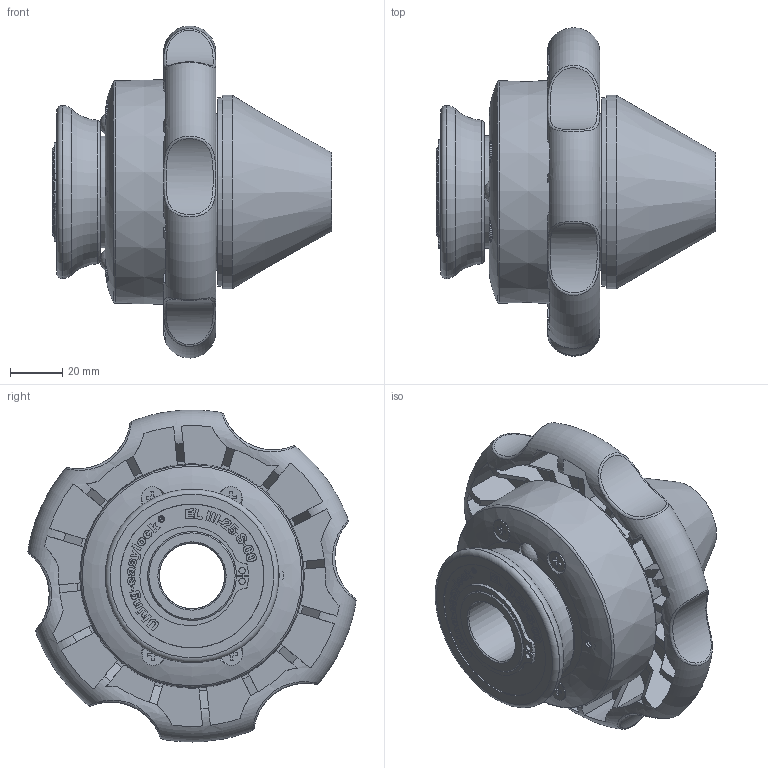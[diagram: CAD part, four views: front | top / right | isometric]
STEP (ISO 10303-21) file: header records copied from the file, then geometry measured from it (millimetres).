
FILE_DESCRIPTION (( 'STEP AP214' ), '1' );
FILE_NAME ('EL-III-25-K60.STEP', '2023-03-16T12:49:45', ( '' ), ( '' ), 'SwSTEP 2.0', 'SolidWorks 2022', '' );
FILE_SCHEMA (( 'AUTOMOTIVE_DESIGN' ));
Length unit declared in the file: millimetre
Products named in the file (1): EL-III-25-K60
Bounding box: 106.97 x 125.55 x 126.99 mm (x, y, z)
Volume: 318165.7 mm3; surface area: 162976.7 mm2
Topology: 52 solids, 81 shells, 1344 faces, 3430 edges, 2265 vertices
Faces by surface type: plane 672, bspline 399, cylinder 200, cone 56, torus 11, sphere 6
Full cylindrical faces by diameter (mm): 2.5 x8, 3 x1, 3.57 x3, 3.571 x1, 3.8 x4, 4 x8, 4.1 x4, 6 x3, 6.8 x1, 8 x1, 8.4 x4, 10.05 x2, 25.05 x2, 25.06 x1, 25.1 x1, 32.3 x1, 34 x5, 34.1 x1, 34.5 x2, 39 x1, 40 x1, 43.2 x1, 48.5 x1, 50 x3, 51 x1, 55 x1, 55.1 x5, 57 x2, 59.9 x2, 60 x4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
Entity records: 95135 total; most frequent: CARTESIAN_POINT 51793, ORIENTED_EDGE 6208, DIRECTION 4554, EDGE_CURVE 3104, VERTEX_POINT 2148, LINE 1734, VECTOR 1734, EDGE_LOOP 1636
